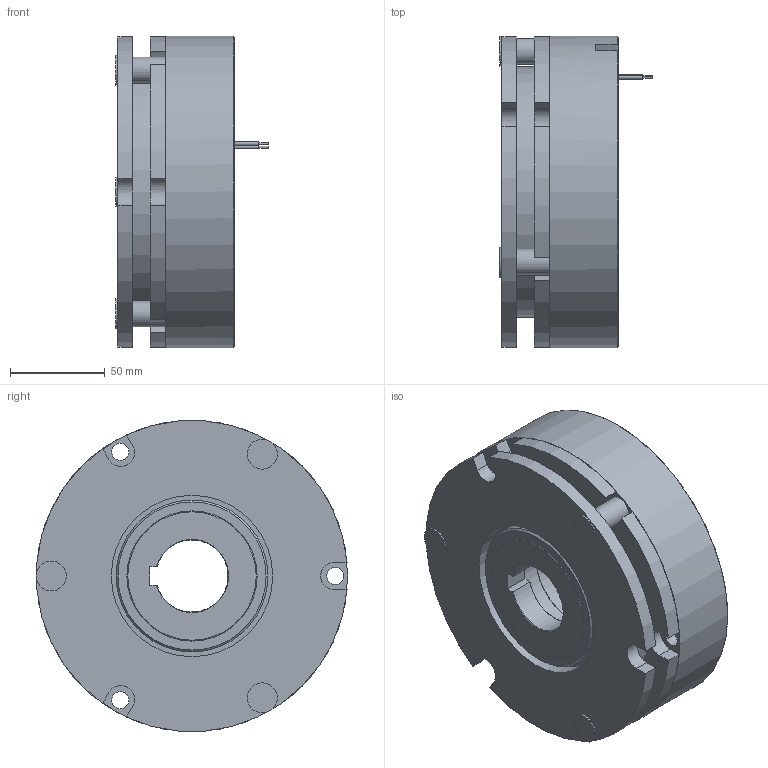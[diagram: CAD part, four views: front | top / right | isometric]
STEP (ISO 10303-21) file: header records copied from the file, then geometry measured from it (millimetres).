
FILE_DESCRIPTION (( 'STEP AP214' ), '1' );
FILE_NAME ('KS_10116A00_Customer_3D_model_19.12.17.STEP', '2020-03-24T12:09:00', ( '' ), ( '' ), 'SwSTEP 2.0', 'SolidWorks 2018', '' );
FILE_SCHEMA (( 'AUTOMOTIVE_DESIGN' ));
Length unit declared in the file: millimetre
Products named in the file (1): KS_10116A00_Customer_3D_model_19.12.17
Bounding box: 80.5 x 164 x 164 mm (x, y, z)
Volume: 1083376.7 mm3; surface area: 139996.5 mm2
Topology: 1 solids, 1 shells, 96 faces, 228 edges, 153 vertices
Faces by surface type: plane 45, cylinder 43, cone 7, bspline 1
Full cylindrical faces by diameter (mm): 0.9 x2, 1.8 x2, 6.8 x3, 9 x3, 13.6 x3, 15.8 x3, 50 x2, 62 x1, 80 x1, 85 x1, 132 x1, 164 x1
Entity records: 2724 total; most frequent: CARTESIAN_POINT 479, DIRECTION 474, ORIENTED_EDGE 384, AXIS2_PLACEMENT_3D 192, EDGE_CURVE 192, EDGE_LOOP 157, VERTEX_POINT 145, FACE_OUTER_BOUND 120
